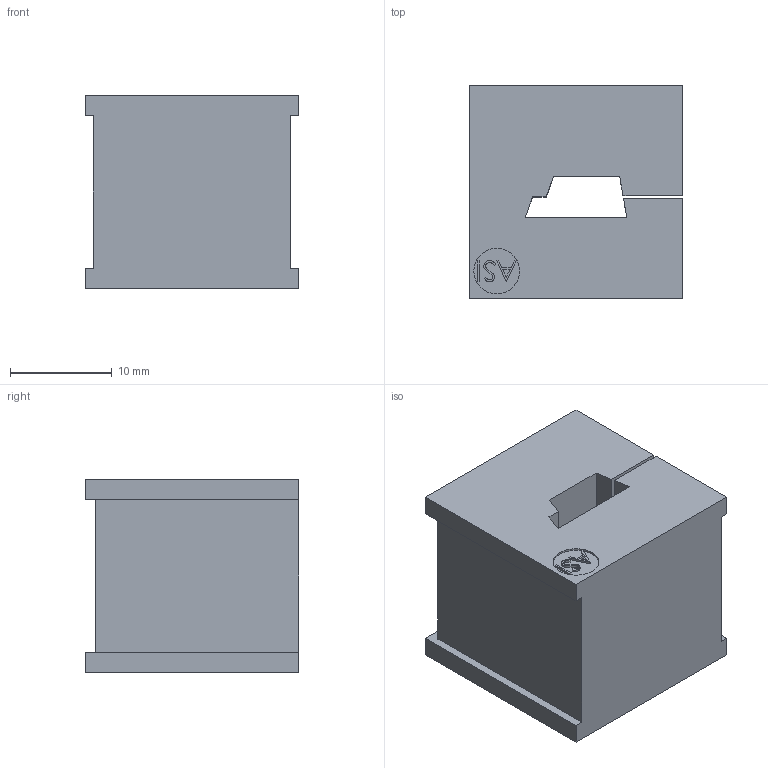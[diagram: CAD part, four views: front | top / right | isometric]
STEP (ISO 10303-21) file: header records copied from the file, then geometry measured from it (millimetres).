
FILE_DESCRIPTION (( 'STEP AP203' ), '1' );
FILE_NAME ('0000001843.STEP', '2014-03-18T12:02:40', ( 'user' ), ( '' ), 'SwSTEP 2.0', 'SolidWorks 2013', '' );
FILE_SCHEMA (( 'CONFIG_CONTROL_DESIGN' ));
Length unit declared in the file: millimetre
Products named in the file (1): 0000001843
Bounding box: 21 x 21 x 19 mm (x, y, z)
Volume: 6916.5 mm3; surface area: 3132.7 mm2
Topology: 1 solids, 1 shells, 70 faces, 186 edges, 124 vertices
Faces by surface type: plane 51, bspline 15, cylinder 4
Entity records: 2853 total; most frequent: CARTESIAN_POINT 1124, ORIENTED_EDGE 372, DIRECTION 276, EDGE_CURVE 186, LINE 148, VECTOR 148, VERTEX_POINT 124, EDGE_LOOP 76
